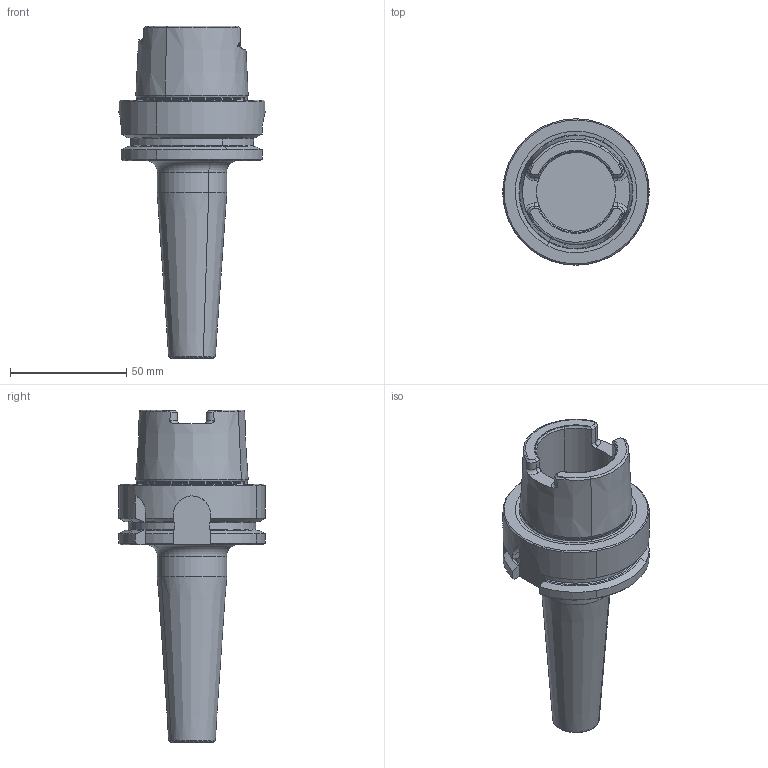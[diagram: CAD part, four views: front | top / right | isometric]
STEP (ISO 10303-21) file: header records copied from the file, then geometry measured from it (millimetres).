
FILE_DESCRIPTION(('CATIA V5 STEP','CAx-IF Rec.Pracs.--- Model Styling and Organization---1.2---2011-12-15'),'2;1');
FILE_NAME('\\nas01\drv1\utils\eitdev\rte\eit\transmagicconvert\db\out\4504452 L.stp','2014-03-27T08:26:55+00:00',('none'),('none'),'CATIA Version 5 Release 21 SP 5 (IN-10)','CATIA V5 STEP AP214','none');
FILE_SCHEMA(('AUTOMOTIVE_DESIGN { 1 0 10303 214 1 1 1 1 }'));
Length unit declared in the file: millimetre
Products named in the file (1): 60972340_0 Holder-Tool HSK A 63 SRK 12X85
Bounding box: 63 x 63 x 143 mm (x, y, z)
Volume: 134424.9 mm3; surface area: 27876.7 mm2
Topology: 1 solids, 1 shells, 136 faces, 351 edges, 220 vertices
Faces by surface type: plane 41, cone 35, cylinder 32, torus 28
Entity records: 4302 total; most frequent: CARTESIAN_POINT 1368, ORIENTED_EDGE 702, DIRECTION 434, EDGE_CURVE 351, AXIS2_PLACEMENT_3D 232, VERTEX_POINT 220, CIRCLE 151, EDGE_LOOP 139
